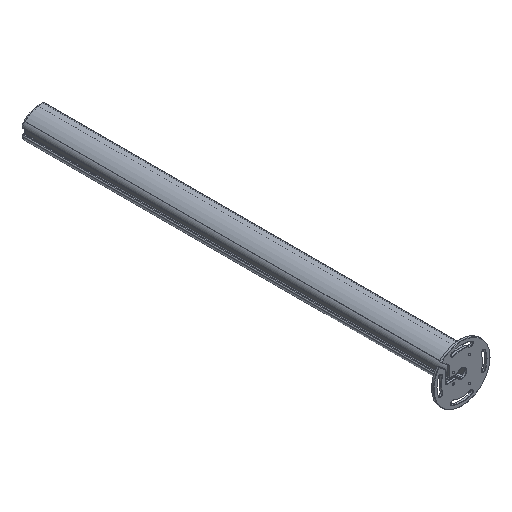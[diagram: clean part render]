
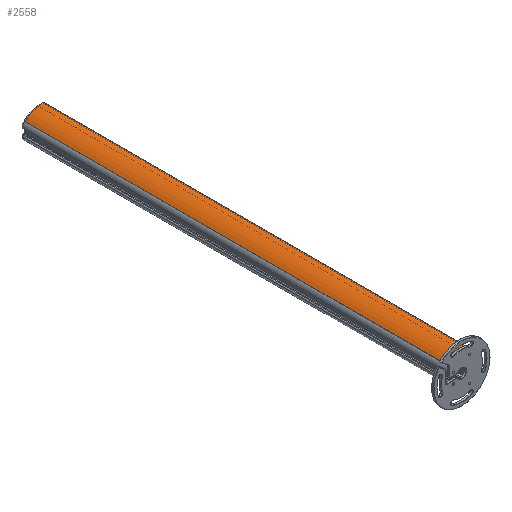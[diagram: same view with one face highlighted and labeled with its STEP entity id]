
A CAD part, isometric view. The second image highlights one B-rep face of the part: STEP entity #2558.
In plain terms, the highlighted cylindrical face has radius 79.059 mm (diameter 158.118 mm), a partial arc.
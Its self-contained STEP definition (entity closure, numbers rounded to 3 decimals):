
#72=CARTESIAN_POINT('',(24.886,-715.,-29.268));
#73=DIRECTION('',(0.,1.,0.));
#74=DIRECTION('',(-0.694,0.,0.72));
#75=AXIS2_PLACEMENT_3D('',#72,#73,#74);
#646=DIRECTION('',(0.,1.,0.));
#647=VECTOR('',#646,1430.);
#648=CARTESIAN_POINT('',(35.448,-715.,49.083));
#649=LINE('',#648,#647);
#650=DIRECTION('',(0.,1.,0.));
#651=VECTOR('',#650,1430.);
#652=CARTESIAN_POINT('',(-30.018,-715.,27.617));
#653=LINE('',#652,#651);
#1015=CARTESIAN_POINT('',(24.886,715.,-29.268));
#1016=DIRECTION('',(0.,1.,0.));
#1017=DIRECTION('',(-0.694,0.,0.72));
#1018=AXIS2_PLACEMENT_3D('',#1015,#1016,#1017);
#1116=CARTESIAN_POINT('',(-30.018,-715.,27.617));
#1117=VERTEX_POINT('',#1116);
#1118=CARTESIAN_POINT('',(35.448,-715.,49.083));
#1119=VERTEX_POINT('',#1118);
#1282=CARTESIAN_POINT('',(-30.018,715.,27.617));
#1283=VERTEX_POINT('',#1282);
#1284=CARTESIAN_POINT('',(35.448,715.,49.083));
#1285=VERTEX_POINT('',#1284);
#2545=CARTESIAN_POINT('',(24.886,-715.,-29.268));
#2546=DIRECTION('',(0.,1.,0.));
#2547=DIRECTION('',(1.,0.,0.));
#2548=AXIS2_PLACEMENT_3D('',#2545,#2546,#2547);
#2549=CYLINDRICAL_SURFACE('',#2548,79.059);
#2550=ORIENTED_EDGE('',*,*,#1453,.F.);
#2552=ORIENTED_EDGE('',*,*,#2551,.T.);
#2554=ORIENTED_EDGE('',*,*,#2553,.T.);
#2555=ORIENTED_EDGE('',*,*,#2537,.F.);
#2556=EDGE_LOOP('',(#2550,#2552,#2554,#2555));
#2557=FACE_OUTER_BOUND('',#2556,.F.);
#2558=ADVANCED_FACE('',(#2557),#2549,.T.);
#76=CIRCLE('',#75,79.059);
#1019=CIRCLE('',#1018,79.059);
#1453=EDGE_CURVE('',#1117,#1119,#76,.T.);
#2537=EDGE_CURVE('',#1119,#1285,#649,.T.);
#2551=EDGE_CURVE('',#1117,#1283,#653,.T.);
#2553=EDGE_CURVE('',#1283,#1285,#1019,.T.);
